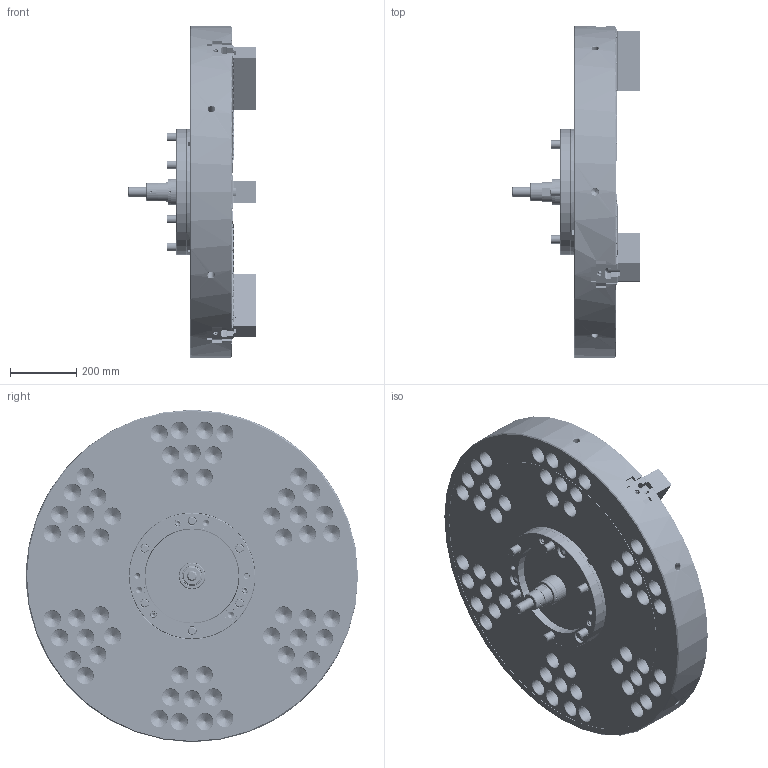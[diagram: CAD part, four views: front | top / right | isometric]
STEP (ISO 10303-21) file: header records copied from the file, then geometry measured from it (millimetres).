
FILE_DESCRIPTION (( 'STEP AP214' ), '1' );
FILE_NAME ('DT1_NV40C15_OUTSIDE_VIEW_OC.STEP', '2026-03-24T06:57:36', ( '' ), ( '' ), 'SwSTEP 2.0', 'SolidWorks 2022', '' );
FILE_SCHEMA (( 'AUTOMOTIVE_DESIGN' ));
Length unit declared in the file: millimetre
Products named in the file (18): DT1_NV40C15_S39^DT1_NV40C1500_円筒用; DT1_NV40C15_CAP^DT1_NV40C1500; DT1_NV40C15_OUTSIDE_VIEW_OC; DT1_NV40C15_P80^DT1_NV40C1500_円筒用; DT1_NV40C15_BASE^DT1_NV40C1500; DT1_NV40C15_ORING^DT1_NV40C1500; DT1_NV40C15_M20x60^DT1_NV40C1500; Copy of 61P321208^DT1_NV40C1500; DT1_NV40C15_DRAWSCREW^DT1_NV40C1500; DT1_NV40C15_TNUT^DT1_NV40C1500; DT1_NV40C15_COVERFOOTER^DT1_NV40C1500; DT1_NV40C15_SOFTJAW^DT1_NV40C1500; Copy of 0030112055^DT1_NV40C1500; DT1_NV40C15_M24x160^DT1_NV40C1500; DT1_NV40C15_DN^DT1_NV40C1500; DT1_NV40C15_BP^DT1_NV40C1500; DT1_NV40C15_COVER^DT1_NV40C1500; DT1_NV40C15_M6x12^DT1_NV40C1500
Assembly tree (48 placements, depth 2):
  DT1_NV40C15_OUTSIDE_VIEW_OC
    DT1_NV40C15_SOFTJAW^DT1_NV40C1500  x3
    DT1_NV40C15_TNUT^DT1_NV40C1500  x6
    DT1_NV40C15_COVER^DT1_NV40C1500
    DT1_NV40C15_DRAWSCREW^DT1_NV40C1500
    Copy of 61P321208^DT1_NV40C1500
    DT1_NV40C15_COVERFOOTER^DT1_NV40C1500
    DT1_NV40C15_M6x12^DT1_NV40C1500  x6
    Copy of 0030112055^DT1_NV40C1500  x3
    DT1_NV40C15_M20x60^DT1_NV40C1500  x6
    DT1_NV40C15_M24x160^DT1_NV40C1500  x6
    DT1_NV40C15_S39^DT1_NV40C1500_円筒用
    DT1_NV40C15_P80^DT1_NV40C1500_円筒用
    DT1_NV40C15_CAP^DT1_NV40C1500  x6
    DT1_NV40C15_ORING^DT1_NV40C1500  x3
    DT1_NV40C15_DN^DT1_NV40C1500
    DT1_NV40C15_BP^DT1_NV40C1500
    DT1_NV40C15_BASE^DT1_NV40C1500
Bounding box: 387 x 1000 x 1000 mm (x, y, z)
Volume: 96599308.5 mm3; surface area: 4115674 mm2
Topology: 48 solids, 132 shells, 12677 faces, 35495 edges, 23128 vertices
Faces by surface type: plane 7749, cylinder 2509, cone 1204, bspline 1049, torus 160, sphere 6
Entity records: 373093 total; most frequent: CARTESIAN_POINT 108567, ORIENTED_EDGE 58922, DIRECTION 48448, EDGE_CURVE 29461, LINE 21472, VECTOR 21472, VERTEX_POINT 19382, AXIS2_PLACEMENT_3D 13488
